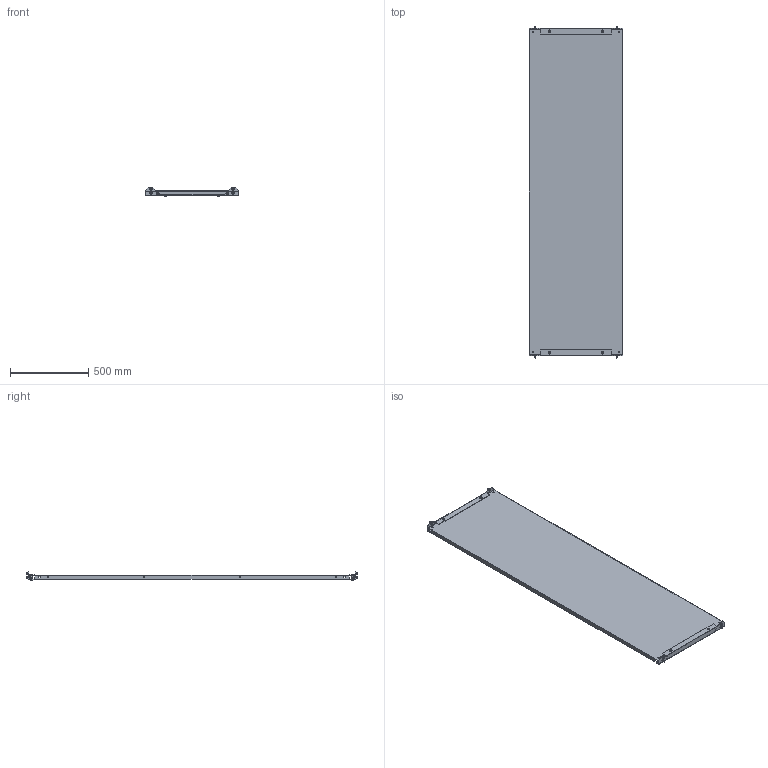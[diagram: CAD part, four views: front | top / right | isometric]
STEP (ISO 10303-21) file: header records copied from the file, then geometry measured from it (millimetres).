
FILE_DESCRIPTION(('Open CASCADE Model'),'2;1');
FILE_NAME('Open CASCADE Shape Model','2025-02-13T16:49:42',('Author'),( 'Open CASCADE'),'Open CASCADE STEP processor 7.8','Open CASCADE 7.8' ,'Unknown');
FILE_SCHEMA(('AUTOMOTIVE_DESIGN { 1 0 10303 214 1 1 1 1 }'));
Length unit declared in the file: millimetre
Products named in the file (11): Compound1; Solid1; Compound2; Solid2; Solid3; Solid4; Solid5; Solid6; Solid7; Solid8; Solid9
Assembly tree (38 placements, depth 3):
  Compound1
    Solid1
    Compound2  x2
      Solid2
      Solid3
    Solid4  x4
    Solid5  x4
    Solid6  x4
    Solid7  x4
    Solid8  x8
    Solid9  x8
Bounding box: 600 x 2126 x 54.5 mm (x, y, z)
Volume: 3900466.8 mm3; surface area: 3151360.7 mm2
Topology: 39 solids, 39 shells, 2600 faces, 7022 edges, 4436 vertices
Faces by surface type: plane 1298, cylinder 702, bspline 304, cone 164, torus 128, sphere 4
Full cylindrical faces by diameter (mm): 5 x12, 6 x16, 6.5 x8, 6.8 x4, 8 x4, 8.3 x8, 8.4 x4, 9.5 x8, 10.1 x4, 10.44 x4, 10.5 x4, 11.57 x8, 12 x4, 12.65 x4, 16 x12, 16.55 x4
Entity records: 22514 total; most frequent: CARTESIAN_POINT 6003, ORIENTED_EDGE 3512, DIRECTION 3182, EDGE_CURVE 1756, LINE 1150, VECTOR 1150, VERTEX_POINT 1131, AXIS2_PLACEMENT_3D 1016
